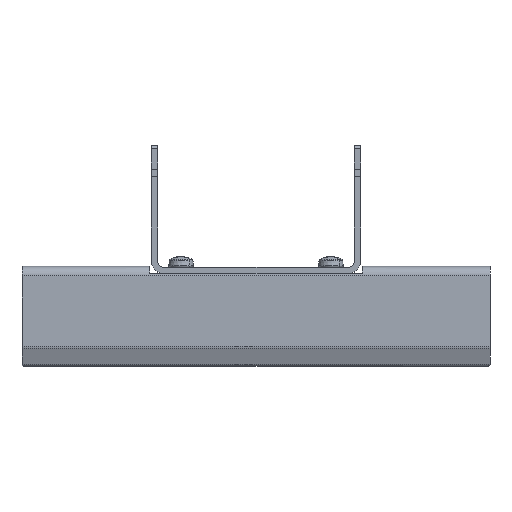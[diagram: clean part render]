
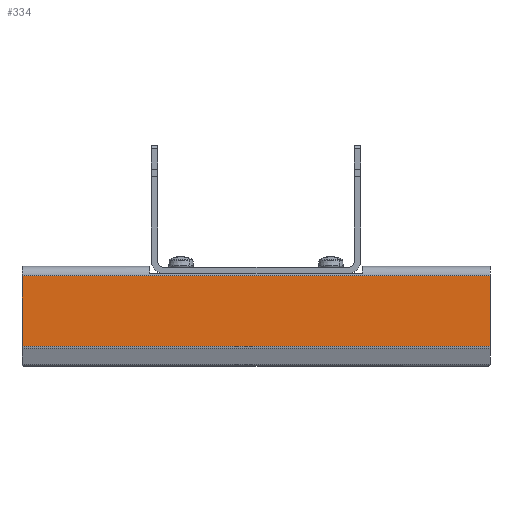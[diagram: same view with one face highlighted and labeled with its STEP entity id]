
A CAD part, top view. The second image highlights one B-rep face of the part: STEP entity #334.
In plain terms, the highlighted planar face has unit normal (0, 0, 1).
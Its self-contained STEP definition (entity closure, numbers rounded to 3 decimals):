
#38 = VERTEX_POINT ( 'NONE', #1613 ) ;
#40 = EDGE_CURVE ( 'NONE', #41, #38, #1651, .T. ) ;
#41 = VERTEX_POINT ( 'NONE', #1744 ) ;
#139 = ORIENTED_EDGE ( 'NONE', *, *, #140, .F. ) ;
#140 = EDGE_CURVE ( 'NONE', #41, #150, #1974, .T. ) ;
#148 = ORIENTED_EDGE ( 'NONE', *, *, #149, .T. ) ;
#149 = EDGE_CURVE ( 'NONE', #173, #150, #1940, .T. ) ;
#150 = VERTEX_POINT ( 'NONE', #1932 ) ;
#173 = VERTEX_POINT ( 'NONE', #2064 ) ;
#179 = ORIENTED_EDGE ( 'NONE', *, *, #40, .T. ) ;
#180 = ORIENTED_EDGE ( 'NONE', *, *, #181, .T. ) ;
#181 = EDGE_CURVE ( 'NONE', #38, #173, #2058, .T. ) ;
#334 = ADVANCED_FACE ( 'NONE', ( #2990 ), #2975, .F. ) ;
#335 = EDGE_LOOP ( 'NONE', ( #179, #180, #148, #139 ) ) ;
#1613 = CARTESIAN_POINT ( 'NONE',  ( -75., -2.705, 3. ) ) ;
#1649 = VECTOR ( 'NONE', #1745, 1000. ) ;
#1650 = CARTESIAN_POINT ( 'NONE',  ( 75., -2.705, 3. ) ) ;
#1651 = LINE ( 'NONE', #1650, #1649 ) ;
#1744 = CARTESIAN_POINT ( 'NONE',  ( 75., -2.705, 3. ) ) ;
#1745 = DIRECTION ( 'NONE',  ( -1., 0., 0. ) ) ;
#1932 = CARTESIAN_POINT ( 'NONE',  ( 75., -25.332, 3. ) ) ;
#1933 = DIRECTION ( 'NONE',  ( 1., 0., 0. ) ) ;
#1934 = VECTOR ( 'NONE', #1933, 1000. ) ;
#1935 = CARTESIAN_POINT ( 'NONE',  ( 75., -25.332, 3. ) ) ;
#1940 = LINE ( 'NONE', #1935, #1934 ) ;
#1973 = CARTESIAN_POINT ( 'NONE',  ( 75., -2.705, 3. ) ) ;
#1974 = LINE ( 'NONE', #1973, #2084 ) ;
#2055 = DIRECTION ( 'NONE',  ( 0., -1., 0. ) ) ;
#2056 = VECTOR ( 'NONE', #2055, 1000. ) ;
#2057 = CARTESIAN_POINT ( 'NONE',  ( -75., -2.705, 3. ) ) ;
#2058 = LINE ( 'NONE', #2057, #2056 ) ;
#2064 = CARTESIAN_POINT ( 'NONE',  ( -75., -25.332, 3. ) ) ;
#2083 = DIRECTION ( 'NONE',  ( 0., -1., 0. ) ) ;
#2084 = VECTOR ( 'NONE', #2083, 1000. ) ;
#2971 = DIRECTION ( 'NONE',  ( 0., 1., 0. ) ) ;
#2972 = DIRECTION ( 'NONE',  ( 0., 0., -1. ) ) ;
#2973 = CARTESIAN_POINT ( 'NONE',  ( 75., -2.705, 3. ) ) ;
#2974 = AXIS2_PLACEMENT_3D ( 'NONE', #2973, #2972, #2971 ) ;
#2975 = PLANE ( 'NONE',  #2974 ) ;
#2990 = FACE_OUTER_BOUND ( 'NONE', #335, .T. ) ;
